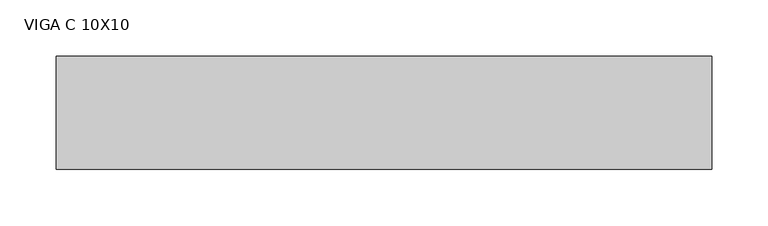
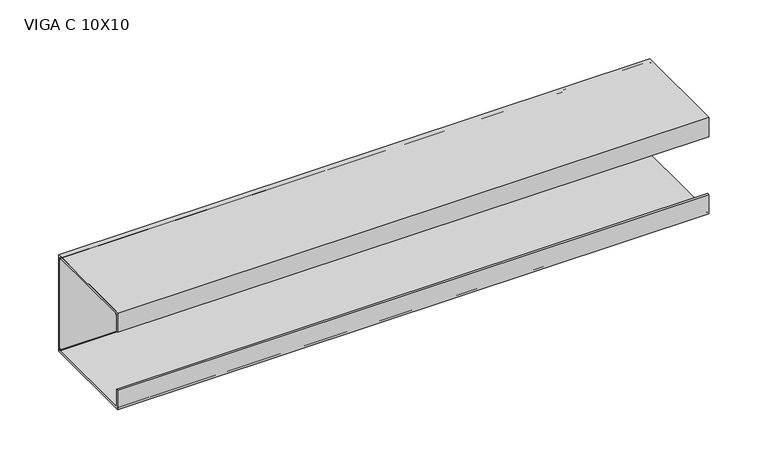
"""IFC4 building model written with IfcOpenShell, lengths in millimetres: beam geometry, VIGA PERFIL C AÇO : VIGA C 10X10."""

from ifc_helpers import new_model, si_unit, point, frame, frame_2d, origin, place, context, project, spatial, polyline, circle_curve, trimmed, segment, composite_curve, outline, extrude, source, transform, mapped, element, save


def viga_c_10x10_08cb0fda(model_context):
    return source(origin(), model_context, "Body", "SweptSolid", [
        extrude(outline(polyline([(9.2, -50.0), (-90.8, -50.0), (-90.8, -30.0), (-88.9, -30.0), (-88.9, -48.1), (7.3, -48.1), (7.3, 48.1), (-88.9, 48.1), (-88.9, 30.0), (-90.8, 30.0), (-90.8, 50.0), (9.2, 50.0), (9.2, -50.0)])), frame((-297.5, 0.0, 0.0), z_axis=(1.0, 0.0, 0.0), x_axis=(0.0, 1.0, 0.0)), (0.0, 0.0, 1.0), 580.0),
        extrude(outline(composite_curve([segment(trimmed(circle_curve(frame_2d((5.4, -46.2)), 3.8), [point((9.2, -46.2))], [point((5.4, -50.0))], False, "CARTESIAN"), True, "CONTINUOUS"), segment(polyline([(5.4, -50.0), (-87.0, -50.0)]), True, "CONTINUOUS"), segment(trimmed(circle_curve(frame_2d((-87.0, -46.2)), 3.8), [point((-87.0, -50.0))], [point((-90.8, -46.2))], False, "CARTESIAN"), True, "CONTINUOUS"), segment(polyline([(-90.8, -46.2), (-90.8, -30.0), (-88.9, -30.0), (-88.9, -46.2)]), True, "CONTINUOUS"), segment(trimmed(circle_curve(frame_2d((-87.0, -46.2)), 1.9), [point((-88.9, -46.2))], [point((-87.0, -48.1))], True, "CARTESIAN"), True, "CONTINUOUS"), segment(polyline([(-87.0, -48.1), (5.4, -48.1)]), True, "CONTINUOUS"), segment(trimmed(circle_curve(frame_2d((5.4, -46.2)), 1.9), [point((5.4, -48.1))], [point((7.3, -46.2))], True, "CARTESIAN"), True, "CONTINUOUS"), segment(polyline([(7.3, -46.2), (7.3, 46.2)]), True, "CONTINUOUS"), segment(trimmed(circle_curve(frame_2d((5.4, 46.2)), 1.9), [point((7.3, 46.2))], [point((5.4, 48.1))], True, "CARTESIAN"), True, "CONTINUOUS"), segment(polyline([(5.4, 48.1), (-87.0, 48.1)]), True, "CONTINUOUS"), segment(trimmed(circle_curve(frame_2d((-87.0, 46.2)), 1.9), [point((-87.0, 48.1))], [point((-88.9, 46.2))], True, "CARTESIAN"), True, "CONTINUOUS"), segment(polyline([(-88.9, 46.2), (-88.9, 30.0), (-90.8, 30.0), (-90.8, 46.2)]), True, "CONTINUOUS"), segment(trimmed(circle_curve(frame_2d((-87.0, 46.2)), 3.8), [point((-90.8, 46.2))], [point((-87.0, 50.0))], False, "CARTESIAN"), True, "CONTINUOUS"), segment(polyline([(-87.0, 50.0), (5.4, 50.0)]), True, "CONTINUOUS"), segment(trimmed(circle_curve(frame_2d((5.4, 46.2)), 3.8), [point((5.4, 50.0))], [point((9.2, 46.2))], False, "CARTESIAN"), True, "CONTINUOUS"), segment(polyline([(9.2, 46.2), (9.2, -46.2)]), True, "CONTINUOUS")], self_intersect=False)), frame((-297.5, 0.0, 0.0), z_axis=(1.0, 0.0, 0.0), x_axis=(0.0, 1.0, 0.0)), (0.0, 0.0, 1.0), 580.0),
    ])


if __name__ == "__main__":
    model = new_model("IFC4")
    model_context = context("Model", 3, world=origin())
    ifc_project = project(units=[si_unit("LENGTHUNIT", "METRE", prefix="MILLI")], contexts=[model_context])
    site = spatial("IfcSite", under=ifc_project)
    building = spatial("IfcBuilding", under=site)
    placement = place(None, origin())
    viga_c_10x10_shape = viga_c_10x10_08cb0fda(model_context)
    element("IfcBeam", 1, ObjectType="VIGA PERFIL C AÇO : VIGA C 10X10", at=placement, inside=building, context=model_context, shape_type="MappedRepresentation", body=[
        mapped(viga_c_10x10_shape, transform((0.0, 0.0, 0.0), x_axis=(1.0, 0.0, 0.0), y_axis=(0.0, 1.0, 0.0), z_axis=(0.0, 0.0, 1.0))),
    ])
    save(model, "model.ifc")
